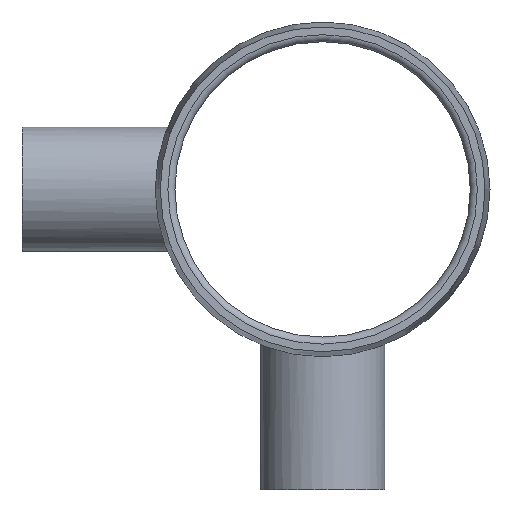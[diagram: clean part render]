
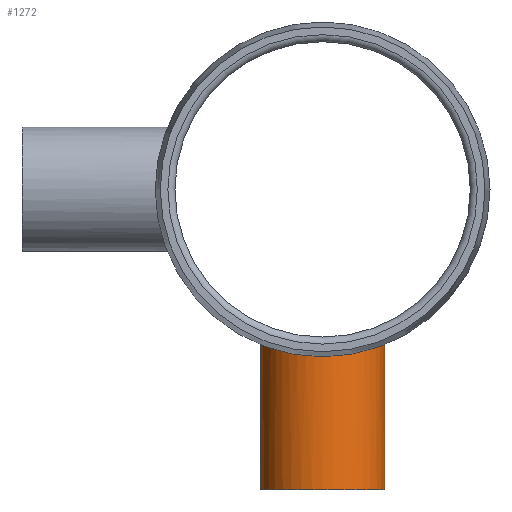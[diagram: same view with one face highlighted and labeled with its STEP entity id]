
A CAD part, left-side view. The second image highlights one B-rep face of the part: STEP entity #1272.
In plain terms, the highlighted cylindrical face has radius 16.701 mm (diameter 33.401 mm), a full revolution.
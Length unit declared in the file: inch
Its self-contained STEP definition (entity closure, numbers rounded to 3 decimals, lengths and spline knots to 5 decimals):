
#106=FACE_OUTER_BOUND('',#167,.T.);
#167=EDGE_LOOP('',(#810,#811,#812,#813,#814));
#239=B_SPLINE_CURVE_WITH_KNOTS('',3,(#2139,#2140,#2141,#2142,#2143,#2144,
#2145,#2146,#2147,#2148,#2149,#2150,#2151,#2152,#2153,#2154,#2155,#2156),
 .UNSPECIFIED.,.F.,.F.,(4,2,2,2,2,2,2,2,4),(0.,0.31808,0.63615,
0.95423,1.27231,1.59014,1.90797,2.2258,
2.54363),.UNSPECIFIED.);
#240=B_SPLINE_CURVE_WITH_KNOTS('',3,(#2157,#2158,#2159,#2160,#2161,#2162,
#2163,#2164,#2165,#2166,#2167,#2168,#2169,#2170,#2171,#2172,#2173,#2174,
#2175,#2176,#2177,#2178,#2179,#2180,#2181,#2182,#2183,#2184,#2185,#2186,
#2187,#2188,#2189,#2190,#2191,#2192,#2193,#2194,#2195,#2196,#2197,#2198,
#2199,#2200,#2201,#2202,#2203,#2204,#2205,#2206),.UNSPECIFIED.,.F.,.F.,
(4,2,2,2,2,2,2,2,2,2,2,2,2,2,2,2,2,2,2,2,2,2,2,2,4),(2.54363,2.86146,
3.17929,3.49712,3.81495,4.13303,4.4511,
4.76918,5.08726,5.40533,5.72341,6.04148,
6.35956,6.67739,6.99522,7.31305,7.63088,
7.94871,8.26654,8.58438,8.90221,9.22028,
9.53836,9.85643,10.17451),.UNSPECIFIED.);
#247=LINE('',#2208,#271);
#271=VECTOR('',#1604,0.6575);
#296=CIRCLE('',#1356,0.6575);
#462=VERTEX_POINT('',#2137);
#463=VERTEX_POINT('',#2138);
#464=VERTEX_POINT('',#2207);
#610=EDGE_CURVE('',#462,#463,#239,.T.);
#611=EDGE_CURVE('',#463,#462,#240,.T.);
#612=EDGE_CURVE('',#463,#464,#247,.T.);
#613=EDGE_CURVE('',#464,#464,#296,.T.);
#810=ORIENTED_EDGE('',*,*,#610,.F.);
#811=ORIENTED_EDGE('',*,*,#611,.F.);
#812=ORIENTED_EDGE('',*,*,#612,.T.);
#813=ORIENTED_EDGE('',*,*,#613,.F.);
#814=ORIENTED_EDGE('',*,*,#612,.F.);
#1193=CYLINDRICAL_SURFACE('',#1355,0.6575);
#1272=ADVANCED_FACE('',(#106),#1193,.T.);
#1355=AXIS2_PLACEMENT_3D('',#2136,#1602,#1603);
#1356=AXIS2_PLACEMENT_3D('',#2209,#1605,#1606);
#1602=DIRECTION('center_axis',(0.,0.,1.));
#1603=DIRECTION('ref_axis',(-1.,0.,0.));
#1604=DIRECTION('',(0.,0.,-1.));
#1605=DIRECTION('center_axis',(0.,0.,-1.));
#1606=DIRECTION('ref_axis',(-1.,0.,0.));
#2136=CARTESIAN_POINT('Origin',(1.96,0.,-3.17));
#2137=CARTESIAN_POINT('',(1.96,-0.6575,-1.62179));
#2138=CARTESIAN_POINT('',(2.6175,0.,-1.75));
#2139=CARTESIAN_POINT('Ctrl Pts',(1.96,-0.6575,-1.62179));
#2140=CARTESIAN_POINT('Ctrl Pts',(2.00174,-0.6575,-1.62179));
#2141=CARTESIAN_POINT('Ctrl Pts',(2.04476,-0.65346,-1.62344));
#2142=CARTESIAN_POINT('Ctrl Pts',(2.13005,-0.63662,-1.63012));
#2143=CARTESIAN_POINT('Ctrl Pts',(2.17232,-0.62381,-1.63514));
#2144=CARTESIAN_POINT('Ctrl Pts',(2.25318,-0.59015,-1.64759));
#2145=CARTESIAN_POINT('Ctrl Pts',(2.29183,-0.56925,-1.65502));
#2146=CARTESIAN_POINT('Ctrl Pts',(2.36322,-0.52113,-1.6708));
#2147=CARTESIAN_POINT('Ctrl Pts',(2.39595,-0.49389,-1.67913));
#2148=CARTESIAN_POINT('Ctrl Pts',(2.45387,-0.43597,-1.69509));
#2149=CARTESIAN_POINT('Ctrl Pts',(2.4811,-0.40325,-1.7033));
#2150=CARTESIAN_POINT('Ctrl Pts',(2.52924,-0.33186,-1.71863));
#2151=CARTESIAN_POINT('Ctrl Pts',(2.55014,-0.29319,-1.72575));
#2152=CARTESIAN_POINT('Ctrl Pts',(2.58382,-0.2123,-1.73756));
#2153=CARTESIAN_POINT('Ctrl Pts',(2.59663,-0.17001,-1.74225));
#2154=CARTESIAN_POINT('Ctrl Pts',(2.61347,-0.08472,
-1.74847));
#2155=CARTESIAN_POINT('Ctrl Pts',(2.6175,-0.04171,-1.75));
#2156=CARTESIAN_POINT('Ctrl Pts',(2.6175,0.,-1.75));
#2157=CARTESIAN_POINT('Ctrl Pts',(2.6175,0.,-1.75));
#2158=CARTESIAN_POINT('Ctrl Pts',(2.6175,0.04171,-1.75));
#2159=CARTESIAN_POINT('Ctrl Pts',(2.61347,0.08472,-1.74847));
#2160=CARTESIAN_POINT('Ctrl Pts',(2.59663,0.17001,-1.74225));
#2161=CARTESIAN_POINT('Ctrl Pts',(2.58382,0.2123,-1.73756));
#2162=CARTESIAN_POINT('Ctrl Pts',(2.55014,0.29319,-1.72575));
#2163=CARTESIAN_POINT('Ctrl Pts',(2.52924,0.33186,-1.71863));
#2164=CARTESIAN_POINT('Ctrl Pts',(2.4811,0.40325,-1.7033));
#2165=CARTESIAN_POINT('Ctrl Pts',(2.45387,0.43597,-1.69509));
#2166=CARTESIAN_POINT('Ctrl Pts',(2.39595,0.49389,-1.67913));
#2167=CARTESIAN_POINT('Ctrl Pts',(2.36322,0.52113,-1.6708));
#2168=CARTESIAN_POINT('Ctrl Pts',(2.29183,0.56925,-1.65502));
#2169=CARTESIAN_POINT('Ctrl Pts',(2.25318,0.59015,-1.64759));
#2170=CARTESIAN_POINT('Ctrl Pts',(2.17232,0.62381,-1.63514));
#2171=CARTESIAN_POINT('Ctrl Pts',(2.13005,0.63662,-1.63012));
#2172=CARTESIAN_POINT('Ctrl Pts',(2.04476,0.65346,-1.62344));
#2173=CARTESIAN_POINT('Ctrl Pts',(2.00174,0.6575,-1.62179));
#2174=CARTESIAN_POINT('Ctrl Pts',(1.91826,0.6575,-1.62179));
#2175=CARTESIAN_POINT('Ctrl Pts',(1.87524,0.65346,-1.62344));
#2176=CARTESIAN_POINT('Ctrl Pts',(1.78995,0.63662,-1.63012));
#2177=CARTESIAN_POINT('Ctrl Pts',(1.74768,0.62381,-1.63514));
#2178=CARTESIAN_POINT('Ctrl Pts',(1.66682,0.59015,-1.64759));
#2179=CARTESIAN_POINT('Ctrl Pts',(1.62817,0.56925,-1.65502));
#2180=CARTESIAN_POINT('Ctrl Pts',(1.55678,0.52113,-1.6708));
#2181=CARTESIAN_POINT('Ctrl Pts',(1.52405,0.49389,-1.67913));
#2182=CARTESIAN_POINT('Ctrl Pts',(1.46613,0.43597,-1.69509));
#2183=CARTESIAN_POINT('Ctrl Pts',(1.4389,0.40325,-1.7033));
#2184=CARTESIAN_POINT('Ctrl Pts',(1.39076,0.33186,-1.71863));
#2185=CARTESIAN_POINT('Ctrl Pts',(1.36986,0.29319,-1.72575));
#2186=CARTESIAN_POINT('Ctrl Pts',(1.33618,0.2123,-1.73756));
#2187=CARTESIAN_POINT('Ctrl Pts',(1.32337,0.17001,-1.74225));
#2188=CARTESIAN_POINT('Ctrl Pts',(1.30653,0.08472,-1.74847));
#2189=CARTESIAN_POINT('Ctrl Pts',(1.3025,0.04171,-1.75));
#2190=CARTESIAN_POINT('Ctrl Pts',(1.3025,-0.04171,-1.75));
#2191=CARTESIAN_POINT('Ctrl Pts',(1.30653,-0.08472,
-1.74847));
#2192=CARTESIAN_POINT('Ctrl Pts',(1.32337,-0.17001,-1.74225));
#2193=CARTESIAN_POINT('Ctrl Pts',(1.33618,-0.2123,-1.73756));
#2194=CARTESIAN_POINT('Ctrl Pts',(1.36986,-0.29319,-1.72575));
#2195=CARTESIAN_POINT('Ctrl Pts',(1.39076,-0.33186,-1.71863));
#2196=CARTESIAN_POINT('Ctrl Pts',(1.4389,-0.40325,-1.7033));
#2197=CARTESIAN_POINT('Ctrl Pts',(1.46613,-0.43597,-1.69509));
#2198=CARTESIAN_POINT('Ctrl Pts',(1.52405,-0.49389,-1.67913));
#2199=CARTESIAN_POINT('Ctrl Pts',(1.55678,-0.52113,-1.6708));
#2200=CARTESIAN_POINT('Ctrl Pts',(1.62817,-0.56925,-1.65502));
#2201=CARTESIAN_POINT('Ctrl Pts',(1.66682,-0.59015,-1.64759));
#2202=CARTESIAN_POINT('Ctrl Pts',(1.74768,-0.62381,-1.63514));
#2203=CARTESIAN_POINT('Ctrl Pts',(1.78995,-0.63662,-1.63012));
#2204=CARTESIAN_POINT('Ctrl Pts',(1.87524,-0.65346,-1.62344));
#2205=CARTESIAN_POINT('Ctrl Pts',(1.91826,-0.6575,-1.62179));
#2206=CARTESIAN_POINT('Ctrl Pts',(1.96,-0.6575,-1.62179));
#2207=CARTESIAN_POINT('',(2.6175,0.,-3.17));
#2208=CARTESIAN_POINT('',(2.6175,0.,-3.17));
#2209=CARTESIAN_POINT('Origin',(1.96,0.,-3.17));
